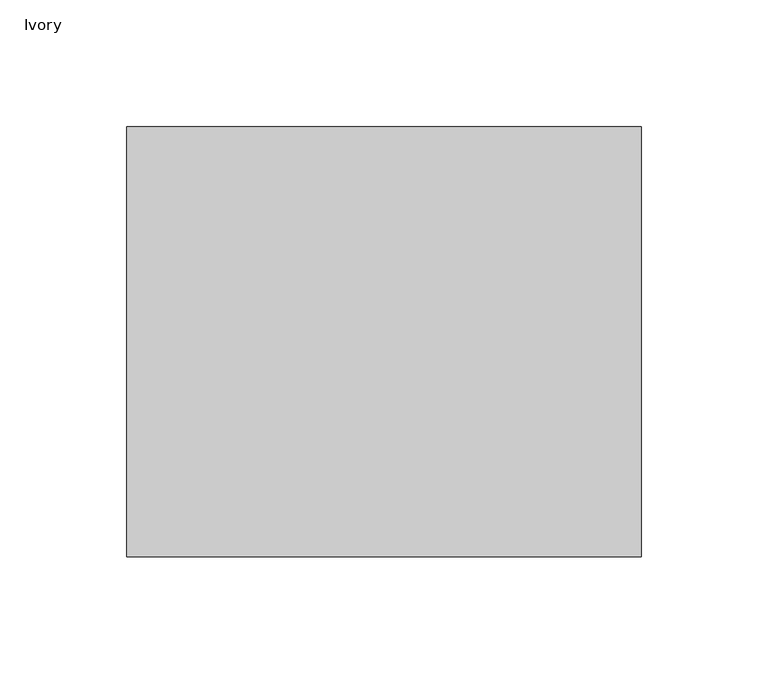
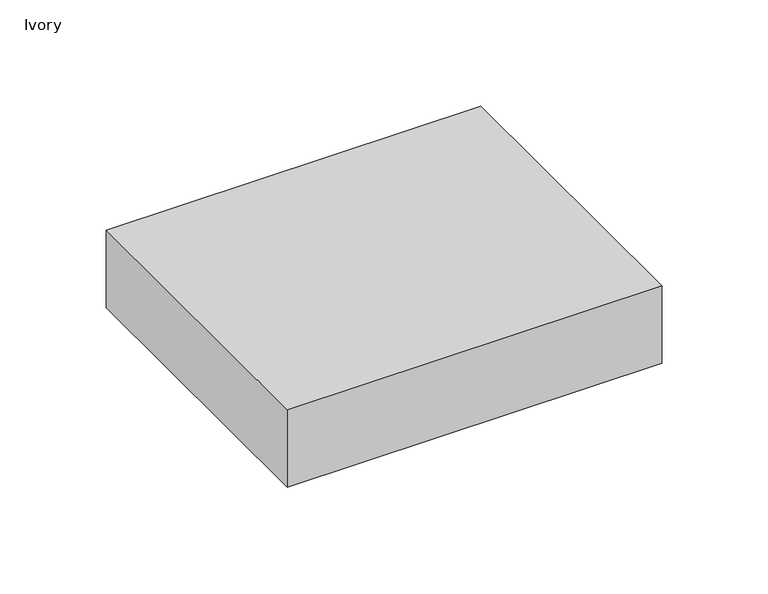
"""IFC4 building model written with IfcOpenShell, lengths in millimetres: proxy geometry, Connector-5500_Series-Wiremold-Backfeed : Ivory."""

from ifc_helpers import new_model, si_unit, origin, origin_with_axes, place, context, project, spatial, polyline, outline, extrude, source, transform, mapped, element, save


def ivory_9706c25e(model_context):
    return source(origin(), model_context, "Body", "SweptSolid", [
        extrude(outline(polyline([(101.6, 84.9376), (101.6, -84.9376), (-101.6, -84.9376), (-101.6, 84.9376), (101.6, 84.9376)])), origin_with_axes(), (0.0, 0.0, 1.0), 44.45),
    ])


if __name__ == "__main__":
    model = new_model("IFC4")
    model_context = context("Model", 3, world=origin())
    ifc_project = project(units=[si_unit("LENGTHUNIT", "METRE", prefix="MILLI")], contexts=[model_context])
    site = spatial("IfcSite", under=ifc_project)
    building = spatial("IfcBuilding", under=site)
    placement = place(None, origin())
    ivory_shape = ivory_9706c25e(model_context)
    element("IfcBuildingElementProxy", 1, Name="Connector-5500_Series-Wiremold-Backfeed : Ivory", ObjectType="Connector-5500_Series-Wiremold-Backfeed : Ivory", at=placement, inside=building, context=model_context, shape_type="MappedRepresentation", body=[
        mapped(ivory_shape, transform((0.0, 0.0, 0.0), x_axis=(1.0, 0.0, 0.0), y_axis=(0.0, 1.0, 0.0), z_axis=(0.0, 0.0, 1.0))),
    ])
    save(model, "model.ifc")
